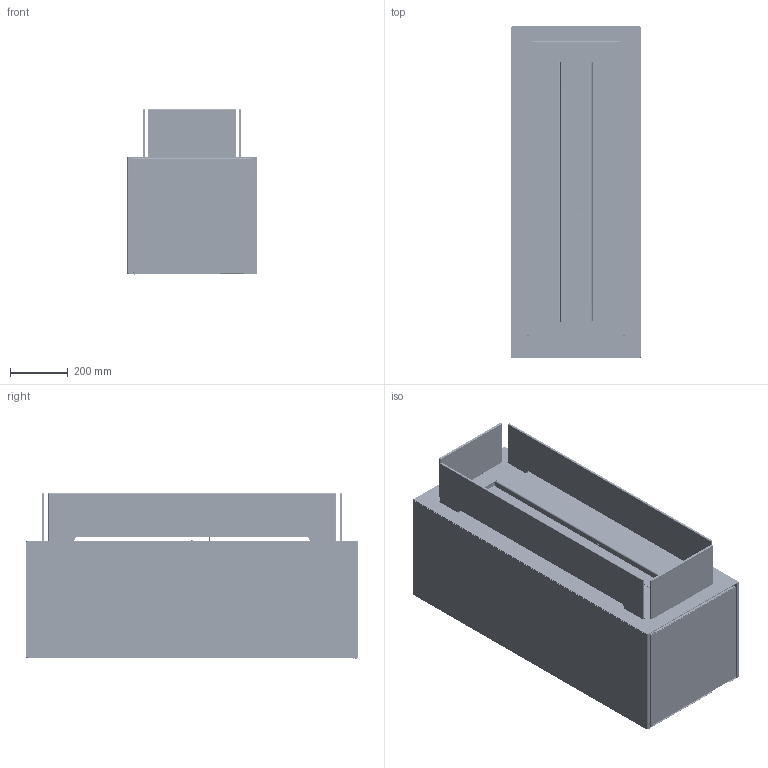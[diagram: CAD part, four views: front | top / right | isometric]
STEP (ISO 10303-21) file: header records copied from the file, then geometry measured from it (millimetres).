
FILE_DESCRIPTION (( 'STEP AP214' ), '1' );
FILE_NAME ('3d_Cabo.STEP', '2022-10-13T07:23:51', ( '' ), ( '' ), 'SwSTEP 2.0', 'SolidWorks 2019', '' );
FILE_SCHEMA (( 'AUTOMOTIVE_DESIGN' ));
Length unit declared in the file: millimetre
Products named in the file (58): Ko³ek gwintowany do zgrzewania_ISO 13918 M4x10 (A2); 000106787; D6799_D4_SW_VZ^000112086; 000112012; 000112015; 000111543; 000057747_000057747_40; 000112099; 000112091; 000113178; 000112090; 000112518; 000113163; B-000-457; 000112102; 000113111; PZ-FLA3XT-0003; 000112016; 000112231; 000113237; 000112149; 000112150; 000113046; 000-031-543; 000112098; 3d_Cabo; 9089629; 000-047-359; 000112092; 000113183; ok1408-28; 000111870; Grza³ka 900W; 000112096; 000112093; 000112519; 000113108; 000113238; 000112226; 000113185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
Assembly tree (124 placements, depth 5):
  3d_Cabo
    000112086
      000112090
        000112091
        000112092
        000112092
      000112088
      D6799_D4_SW_VZ^000112086
      000111870
      000112093
        000112094
        000112095
          000112096
          000112012
        000112098
          000112099
          000112015
          000112016
      000112102  x2
      9089629
      000113237
      000113238
    000057747_000057747_40  x2
    000112226  x2
    000112231
      000112149
        000112150
        Ko³ek gwintowany do zgrzewania_ISO 13918 M4x10 (A2)  x46
      PZ-FLA3XT-0003
      ok1408-28
        000-031-542
        000-031-543
        B-003-073
        B-000-457  x2
      000112518
        000106787
        B-000-462  x5
        B-000-472
        000112520  x2
        000112519
        000-047-359  x2
      000113108
      000111543
      000113111
      Grza³ka 900W
      000113164
      000113178
        000113179
        000111759
      000113183
        000113184
        000111759
      000113178
        000113179
        000111759
      000113183
        000113184
        000111759
      000113178
        000113179
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Bounding box: 450 x 1150 x 573 mm (x, y, z)
Volume: 22299812.2 mm3; surface area: 8374059.1 mm2
Topology: 117 solids, 117 shells, 6753 faces, 17914 edges, 11310 vertices
Faces by surface type: plane 3335, cylinder 2996, cone 240, bspline 150, torus 32
Entity records: 124624 total; most frequent: CARTESIAN_POINT 25447, DIRECTION 20589, ORIENTED_EDGE 19898, EDGE_CURVE 9949, AXIS2_PLACEMENT_3D 7174, VERTEX_POINT 6242, LINE 6241, VECTOR 6241
